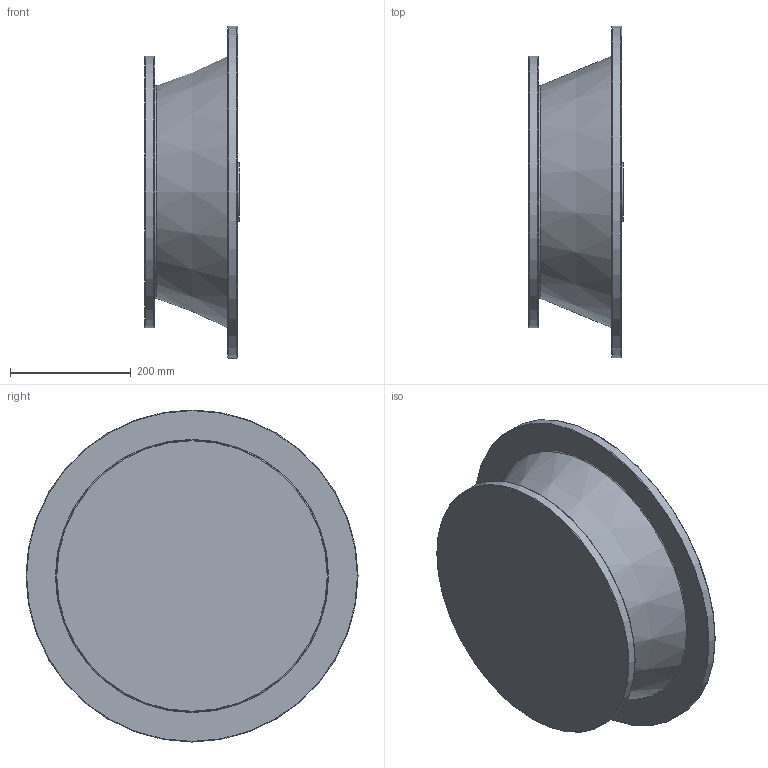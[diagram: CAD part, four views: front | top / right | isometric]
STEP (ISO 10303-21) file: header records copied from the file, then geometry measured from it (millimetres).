
FILE_DESCRIPTION((''),'2;1');
FILE_NAME('D:\PAWEŁ\ZLECENIA\2011 DualSystem\Przekładnie DR\DR140\STEP\280_B5_L153,5.stp','2012-06-11T12:54:19',('admin'),(''),'Autodesk Inventor 2009','Autodesk Inventor 2009','');
FILE_SCHEMA(('AUTOMOTIVE_DESIGN { 1 0 10303 214 1 1 1 1 }'));
Length unit declared in the file: millimetre
Products named in the file (1): 280_B5_L153,5
Bounding box: 156 x 550 x 550 mm (x, y, z)
Volume: 5433867.9 mm3; surface area: 946924.1 mm2
Topology: 1 solids, 1 shells, 42 faces, 70 edges, 44 vertices
Faces by surface type: bspline 18, plane 11, cylinder 6, torus 5, cone 2
Full cylindrical faces by diameter (mm): 97 x1, 437.024 x1, 450 x2, 550 x1
Entity records: 1131 total; most frequent: CARTESIAN_POINT 401, DIRECTION 136, ORIENTED_EDGE 96, EDGE_LOOP 78, AXIS2_PLACEMENT_3D 63, EDGE_CURVE 48, VERTEX_POINT 44, FACE_OUTER_BOUND 42
